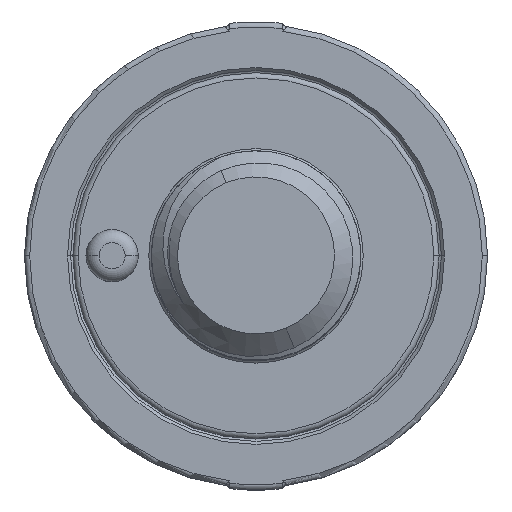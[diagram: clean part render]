
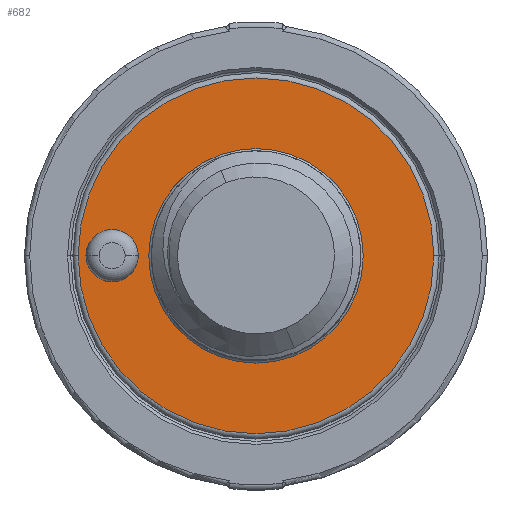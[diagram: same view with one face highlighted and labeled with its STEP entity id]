
A CAD part, top view. The second image highlights one B-rep face of the part: STEP entity #682.
In plain terms, the highlighted planar face has unit normal (0, 0, 1).
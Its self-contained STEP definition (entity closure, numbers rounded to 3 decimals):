
#21 = FACE_BOUND ( 'NONE', #934, .T. ) ;
#92 = DIRECTION ( 'NONE',  ( 1., 0., 0. ) ) ;
#377 = VERTEX_POINT ( 'NONE', #3387 ) ;
#611 = AXIS2_PLACEMENT_3D ( 'NONE', #2903, #3438, #4961 ) ;
#682 = ADVANCED_FACE ( 'NONE', ( #2482, #21, #3825 ), #1882, .T. ) ;
#742 = ORIENTED_EDGE ( 'NONE', *, *, #1541, .F. ) ;
#934 = EDGE_LOOP ( 'NONE', ( #742, #6194 ) ) ;
#1157 = CARTESIAN_POINT ( 'NONE',  ( -3.342, 20.716, 19.051 ) ) ;
#1168 = VERTEX_POINT ( 'NONE', #3864 ) ;
#1306 = EDGE_CURVE ( 'NONE', #5224, #3877, #3414, .T. ) ;
#1351 = DIRECTION ( 'NONE',  ( 0., 0., 1. ) ) ;
#1371 = AXIS2_PLACEMENT_3D ( 'NONE', #3839, #1351, #6172 ) ;
#1398 = CARTESIAN_POINT ( 'NONE',  ( 3.658, 20.716, 19.051 ) ) ;
#1541 = EDGE_CURVE ( 'NONE', #4567, #1168, #4111, .T. ) ;
#1559 = CARTESIAN_POINT ( 'NONE',  ( -8.842, 20.716, 19.051 ) ) ;
#1858 = DIRECTION ( 'NONE',  ( -1., 0., 0. ) ) ;
#1882 = PLANE ( 'NONE',  #6323 ) ;
#2153 = DIRECTION ( 'NONE',  ( 0., 0., 1. ) ) ;
#2226 = CARTESIAN_POINT ( 'NONE',  ( 0.758, 20.716, 19.051 ) ) ;
#2229 = EDGE_LOOP ( 'NONE', ( #3224, #2247 ) ) ;
#2247 = ORIENTED_EDGE ( 'NONE', *, *, #5980, .F. ) ;
#2282 = ORIENTED_EDGE ( 'NONE', *, *, #1306, .T. ) ;
#2482 = FACE_OUTER_BOUND ( 'NONE', #5884, .T. ) ;
#2512 = AXIS2_PLACEMENT_3D ( 'NONE', #1157, #2624, #6067 ) ;
#2624 = DIRECTION ( 'NONE',  ( 0., 0., 1. ) ) ;
#2835 = CARTESIAN_POINT ( 'NONE',  ( -7.842, 20.716, 19.051 ) ) ;
#2903 = CARTESIAN_POINT ( 'NONE',  ( -3.342, 20.716, 19.051 ) ) ;
#3032 = DIRECTION ( 'NONE',  ( 0., 0., 1. ) ) ;
#3224 = ORIENTED_EDGE ( 'NONE', *, *, #4383, .F. ) ;
#3387 = CARTESIAN_POINT ( 'NONE',  ( -7.442, 20.716, 19.051 ) ) ;
#3414 = CIRCLE ( 'NONE', #611, 6.8 ) ;
#3438 = DIRECTION ( 'NONE',  ( 0., 0., 1. ) ) ;
#3474 = VERTEX_POINT ( 'NONE', #2226 ) ;
#3605 = EDGE_CURVE ( 'NONE', #1168, #4567, #5129, .T. ) ;
#3649 = CIRCLE ( 'NONE', #5504, 4.1 ) ;
#3825 = FACE_BOUND ( 'NONE', #2229, .T. ) ;
#3839 = CARTESIAN_POINT ( 'NONE',  ( -8.842, 20.716, 19.051 ) ) ;
#3864 = CARTESIAN_POINT ( 'NONE',  ( -9.842, 20.716, 19.051 ) ) ;
#3877 = VERTEX_POINT ( 'NONE', #5018 ) ;
#4111 = CIRCLE ( 'NONE', #5163, 1. ) ;
#4199 = EDGE_CURVE ( 'NONE', #3877, #5224, #4223, .T. ) ;
#4223 = CIRCLE ( 'NONE', #2512, 6.8 ) ;
#4383 = EDGE_CURVE ( 'NONE', #3474, #377, #5951, .T. ) ;
#4567 = VERTEX_POINT ( 'NONE', #2835 ) ;
#4804 = DIRECTION ( 'NONE',  ( 1., 0., 0. ) ) ;
#4872 = ORIENTED_EDGE ( 'NONE', *, *, #4199, .T. ) ;
#4961 = DIRECTION ( 'NONE',  ( 1., 0., 0. ) ) ;
#5018 = CARTESIAN_POINT ( 'NONE',  ( 3.458, 20.716, 19.051 ) ) ;
#5129 = CIRCLE ( 'NONE', #1371, 1. ) ;
#5163 = AXIS2_PLACEMENT_3D ( 'NONE', #1559, #3032, #92 ) ;
#5224 = VERTEX_POINT ( 'NONE', #5259 ) ;
#5259 = CARTESIAN_POINT ( 'NONE',  ( -10.142, 20.716, 19.051 ) ) ;
#5307 = CARTESIAN_POINT ( 'NONE',  ( -3.342, 20.716, 19.051 ) ) ;
#5504 = AXIS2_PLACEMENT_3D ( 'NONE', #5307, #5785, #4804 ) ;
#5599 = DIRECTION ( 'NONE',  ( 1., 0., 0. ) ) ;
#5766 = DIRECTION ( 'NONE',  ( 0., 0., 1. ) ) ;
#5785 = DIRECTION ( 'NONE',  ( 0., 0., 1. ) ) ;
#5884 = EDGE_LOOP ( 'NONE', ( #2282, #4872 ) ) ;
#5930 = AXIS2_PLACEMENT_3D ( 'NONE', #6072, #2153, #5599 ) ;
#5951 = CIRCLE ( 'NONE', #5930, 4.1 ) ;
#5980 = EDGE_CURVE ( 'NONE', #377, #3474, #3649, .T. ) ;
#6067 = DIRECTION ( 'NONE',  ( 1., 0., 0. ) ) ;
#6072 = CARTESIAN_POINT ( 'NONE',  ( -3.342, 20.716, 19.051 ) ) ;
#6172 = DIRECTION ( 'NONE',  ( 1., 0., 0. ) ) ;
#6194 = ORIENTED_EDGE ( 'NONE', *, *, #3605, .F. ) ;
#6323 = AXIS2_PLACEMENT_3D ( 'NONE', #1398, #5766, #1858 ) ;
